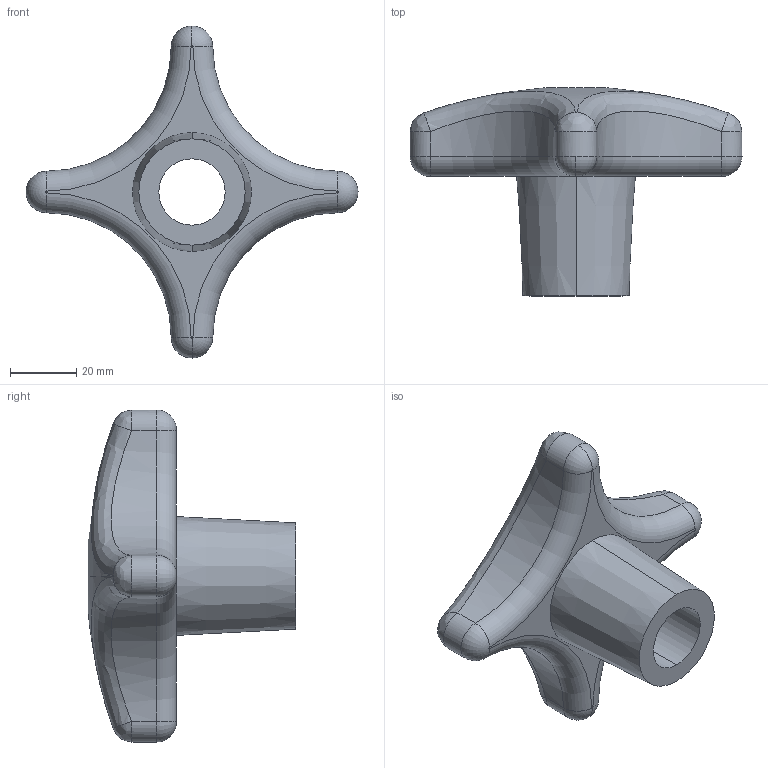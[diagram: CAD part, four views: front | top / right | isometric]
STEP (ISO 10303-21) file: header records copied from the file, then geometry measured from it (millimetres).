
FILE_DESCRIPTION (( 'STEP AP203' ), '1' );
FILE_NAME ('7000.W190.step', '2010-01-29T17:35:55', ( 'Wixroyd' ), ( 'Wixroyd' ), 'SwSTEP 2.0', 'SolidWorks 2009', '' );
FILE_SCHEMA (( 'CONFIG_CONTROL_DESIGN' ));
Length unit declared in the file: millimetre
Products named in the file (1): 7000.W190
Bounding box: 100 x 62.63 x 100 mm (x, y, z)
Volume: 93046.5 mm3; surface area: 19421.9 mm2
Topology: 1 solids, 1 shells, 35 faces, 82 edges, 49 vertices
Faces by surface type: cylinder 11, torus 10, bspline 8, cone 2, sphere 2, plane 2
Entity records: 7213 total; most frequent: CARTESIAN_POINT 6351, DIRECTION 169, ORIENTED_EDGE 164, EDGE_CURVE 82, AXIS2_PLACEMENT_3D 78, CIRCLE 50, VERTEX_POINT 49, EDGE_LOOP 37
